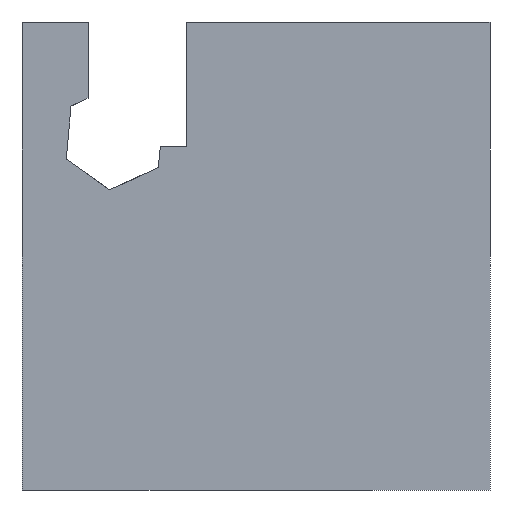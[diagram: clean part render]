
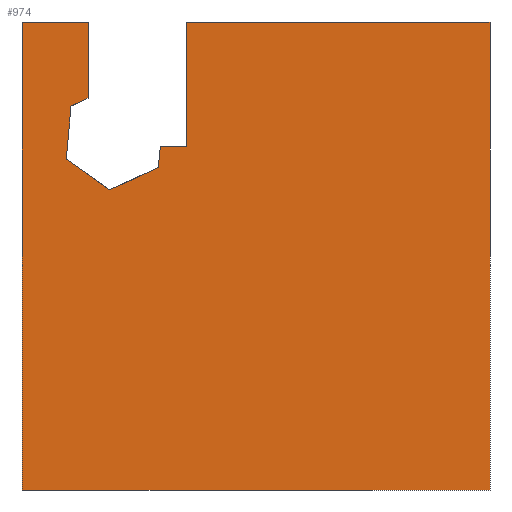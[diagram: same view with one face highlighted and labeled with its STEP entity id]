
A CAD part, front view. The second image highlights one B-rep face of the part: STEP entity #974.
In plain terms, the highlighted planar face has unit normal (0, -1, 0).
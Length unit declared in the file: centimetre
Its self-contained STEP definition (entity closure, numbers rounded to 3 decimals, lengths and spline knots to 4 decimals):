
#41 = EDGE_CURVE ( 'NONE', #945, #1370, #675, .T. ) ;
#44 = EDGE_CURVE ( 'NONE', #875, #1395, #569, .T. ) ;
#57 = CARTESIAN_POINT ( 'NONE',  ( 208.3806, 0., 868.5323 ) ) ;
#65 = ORIENTED_EDGE ( 'NONE', *, *, #1360, .F. ) ;
#109 = EDGE_CURVE ( 'NONE', #727, #1265, #1475, .T. ) ;
#126 = VECTOR ( 'NONE', #1195, 100. ) ;
#154 = LINE ( 'NONE', #278, #520 ) ;
#156 = EDGE_CURVE ( 'NONE', #875, #1168, #601, .T. ) ;
#163 = LINE ( 'NONE', #690, #126 ) ;
#170 = CARTESIAN_POINT ( 'NONE',  ( 352.333, 0., 1000. ) ) ;
#225 = LINE ( 'NONE', #342, #1441 ) ;
#236 = CARTESIAN_POINT ( 'NONE',  ( 141.1027, 0., 837.3992 ) ) ;
#257 = ORIENTED_EDGE ( 'NONE', *, *, #666, .F. ) ;
#263 = EDGE_CURVE ( 'NONE', #1109, #891, #225, .T. ) ;
#267 = VECTOR ( 'NONE', #593, 100. ) ;
#278 = CARTESIAN_POINT ( 'NONE',  ( 1000., 0., 1000. ) ) ;
#292 = CARTESIAN_POINT ( 'NONE',  ( 1000., 0., 0. ) ) ;
#298 = CARTESIAN_POINT ( 'NONE',  ( 0., 0., 1000. ) ) ;
#320 = EDGE_CURVE ( 'NONE', #752, #727, #973, .T. ) ;
#342 = CARTESIAN_POINT ( 'NONE',  ( 94.5782, 0., 707.0125 ) ) ;
#352 = DIRECTION ( 'NONE',  ( 1., 0., 0. ) ) ;
#355 = EDGE_CURVE ( 'NONE', #1370, #623, #1373, .T. ) ;
#399 = EDGE_LOOP ( 'NONE', ( #898, #1043, #257, #1412, #1126, #606, #1018, #65, #654, #1169, #996, #1105, #662 ) ) ;
#403 = LINE ( 'NONE', #890, #1378 ) ;
#418 = CARTESIAN_POINT ( 'NONE',  ( 291.3597, 0., 689.2166 ) ) ;
#420 = FACE_OUTER_BOUND ( 'NONE', #399, .T. ) ;
#426 = VECTOR ( 'NONE', #592, 100. ) ;
#434 = DIRECTION ( 'NONE',  ( 0., 0., -1. ) ) ;
#490 = CARTESIAN_POINT ( 'NONE',  ( 187.8317, 0., 641.3086 ) ) ;
#520 = VECTOR ( 'NONE', #1170, 100. ) ;
#541 = VECTOR ( 'NONE', #1597, 100. ) ;
#547 = DIRECTION ( 'NONE',  ( 1., 0., 0. ) ) ;
#555 = LINE ( 'NONE', #1436, #1185 ) ;
#569 = LINE ( 'NONE', #57, #900 ) ;
#573 = LINE ( 'NONE', #1438, #541 ) ;
#583 = CARTESIAN_POINT ( 'NONE',  ( 0., 0., 0. ) ) ;
#592 = DIRECTION ( 'NONE',  ( 0., 0., 1. ) ) ;
#593 = DIRECTION ( 'NONE',  ( 0., 0., -1. ) ) ;
#599 = EDGE_CURVE ( 'NONE', #752, #1145, #555, .T. ) ;
#601 = LINE ( 'NONE', #1111, #426 ) ;
#606 = ORIENTED_EDGE ( 'NONE', *, *, #44, .F. ) ;
#623 = VERTEX_POINT ( 'NONE', #292 ) ;
#654 = ORIENTED_EDGE ( 'NONE', *, *, #41, .T. ) ;
#662 = ORIENTED_EDGE ( 'NONE', *, *, #320, .T. ) ;
#666 = EDGE_CURVE ( 'NONE', #891, #1464, #573, .T. ) ;
#668 = PLANE ( 'NONE',  #1487 ) ;
#675 = LINE ( 'NONE', #683, #1575 ) ;
#683 = CARTESIAN_POINT ( 'NONE',  ( 0., 0., 1000. ) ) ;
#690 = CARTESIAN_POINT ( 'NONE',  ( 291.3597, 0., 689.2166 ) ) ;
#707 = VECTOR ( 'NONE', #1476, 100. ) ;
#714 = CARTESIAN_POINT ( 'NONE',  ( 141.1027, 0., 734.5336 ) ) ;
#727 = VERTEX_POINT ( 'NONE', #1324 ) ;
#737 = DIRECTION ( 'NONE',  ( 0.817, 0., -0.576 ) ) ;
#752 = VERTEX_POINT ( 'NONE', #170 ) ;
#757 = CARTESIAN_POINT ( 'NONE',  ( 0., 0., 0. ) ) ;
#875 = VERTEX_POINT ( 'NONE', #236 ) ;
#890 = CARTESIAN_POINT ( 'NONE',  ( 0., 0., 1000. ) ) ;
#891 = VERTEX_POINT ( 'NONE', #490 ) ;
#898 = ORIENTED_EDGE ( 'NONE', *, *, #109, .T. ) ;
#900 = VECTOR ( 'NONE', #906, 100. ) ;
#903 = DIRECTION ( 'NONE',  ( 1., 0., 0. ) ) ;
#905 = EDGE_CURVE ( 'NONE', #1145, #623, #154, .T. ) ;
#906 = DIRECTION ( 'NONE',  ( -0.908, 0., -0.42 ) ) ;
#945 = VERTEX_POINT ( 'NONE', #1312 ) ;
#958 = LINE ( 'NONE', #1341, #707 ) ;
#973 = LINE ( 'NONE', #1252, #267 ) ;
#974 = ADVANCED_FACE ( 'NONE', ( #420 ), #668, .F. ) ;
#996 = ORIENTED_EDGE ( 'NONE', *, *, #905, .F. ) ;
#1018 = ORIENTED_EDGE ( 'NONE', *, *, #156, .T. ) ;
#1026 = CARTESIAN_POINT ( 'NONE',  ( 295.4579, 0., 734.5336 ) ) ;
#1043 = ORIENTED_EDGE ( 'NONE', *, *, #1390, .F. ) ;
#1061 = EDGE_CURVE ( 'NONE', #1395, #1109, #958, .T. ) ;
#1062 = VECTOR ( 'NONE', #1097, 100. ) ;
#1065 = CARTESIAN_POINT ( 'NONE',  ( 104.8526, 0., 820.6243 ) ) ;
#1097 = DIRECTION ( 'NONE',  ( -1., 0., 0. ) ) ;
#1105 = ORIENTED_EDGE ( 'NONE', *, *, #599, .F. ) ;
#1109 = VERTEX_POINT ( 'NONE', #1325 ) ;
#1111 = CARTESIAN_POINT ( 'NONE',  ( 141.1027, 0., 734.5336 ) ) ;
#1126 = ORIENTED_EDGE ( 'NONE', *, *, #1061, .F. ) ;
#1145 = VERTEX_POINT ( 'NONE', #1446 ) ;
#1168 = VERTEX_POINT ( 'NONE', #1580 ) ;
#1169 = ORIENTED_EDGE ( 'NONE', *, *, #355, .T. ) ;
#1170 = DIRECTION ( 'NONE',  ( 0., 0., -1. ) ) ;
#1181 = DIRECTION ( 'NONE',  ( 0., 0., 1. ) ) ;
#1185 = VECTOR ( 'NONE', #547, 100. ) ;
#1195 = DIRECTION ( 'NONE',  ( 0.09, 0., 0.996 ) ) ;
#1252 = CARTESIAN_POINT ( 'NONE',  ( 352.333, 0., 734.5336 ) ) ;
#1265 = VERTEX_POINT ( 'NONE', #1026 ) ;
#1312 = CARTESIAN_POINT ( 'NONE',  ( 0., 0., 1000. ) ) ;
#1324 = CARTESIAN_POINT ( 'NONE',  ( 352.333, 0., 734.5336 ) ) ;
#1325 = CARTESIAN_POINT ( 'NONE',  ( 94.5782, 0., 707.0125 ) ) ;
#1341 = CARTESIAN_POINT ( 'NONE',  ( 104.8526, 0., 820.6243 ) ) ;
#1360 = EDGE_CURVE ( 'NONE', #945, #1168, #403, .T. ) ;
#1370 = VERTEX_POINT ( 'NONE', #757 ) ;
#1373 = LINE ( 'NONE', #583, #1417 ) ;
#1378 = VECTOR ( 'NONE', #903, 100. ) ;
#1390 = EDGE_CURVE ( 'NONE', #1464, #1265, #163, .T. ) ;
#1395 = VERTEX_POINT ( 'NONE', #1065 ) ;
#1412 = ORIENTED_EDGE ( 'NONE', *, *, #263, .F. ) ;
#1417 = VECTOR ( 'NONE', #352, 100. ) ;
#1436 = CARTESIAN_POINT ( 'NONE',  ( 0., 0., 1000. ) ) ;
#1438 = CARTESIAN_POINT ( 'NONE',  ( 187.8317, 0., 641.3086 ) ) ;
#1441 = VECTOR ( 'NONE', #737, 100. ) ;
#1446 = CARTESIAN_POINT ( 'NONE',  ( 1000., 0., 1000. ) ) ;
#1450 = DIRECTION ( 'NONE',  ( 0., 1., 0. ) ) ;
#1464 = VERTEX_POINT ( 'NONE', #418 ) ;
#1475 = LINE ( 'NONE', #714, #1062 ) ;
#1476 = DIRECTION ( 'NONE',  ( -0.09, 0., -0.996 ) ) ;
#1487 = AXIS2_PLACEMENT_3D ( 'NONE', #298, #1450, #1181 ) ;
#1575 = VECTOR ( 'NONE', #434, 100. ) ;
#1580 = CARTESIAN_POINT ( 'NONE',  ( 141.1027, 0., 1000. ) ) ;
#1597 = DIRECTION ( 'NONE',  ( 0.908, 0., 0.42 ) ) ;
